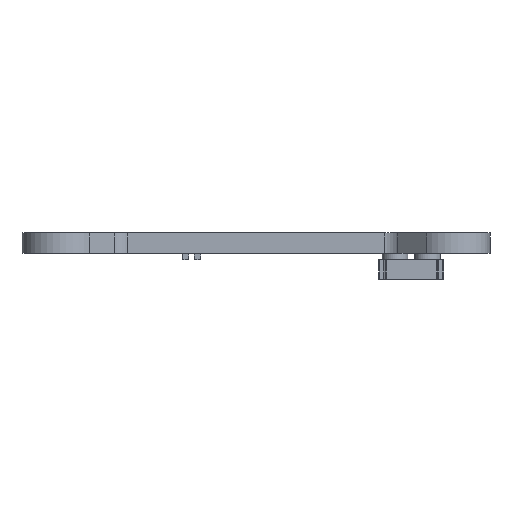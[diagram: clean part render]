
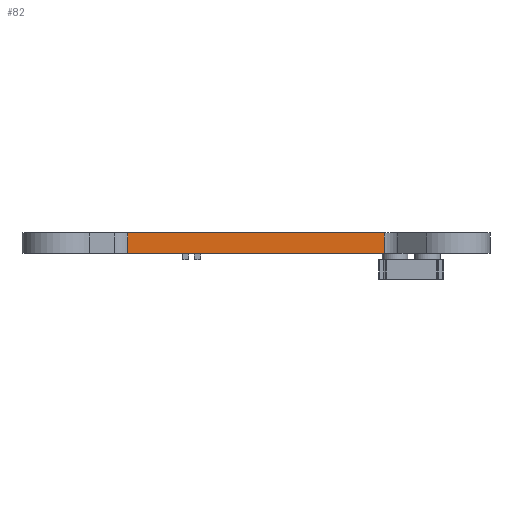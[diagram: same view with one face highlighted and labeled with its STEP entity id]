
A CAD part, left-side view. The second image highlights one B-rep face of the part: STEP entity #82.
In plain terms, the highlighted planar face has unit normal (-1, 0, 0).
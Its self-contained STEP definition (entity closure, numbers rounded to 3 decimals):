
#44 = EDGE_CURVE('',#45,#47,#49,.T.);
#45 = VERTEX_POINT('',#46);
#46 = CARTESIAN_POINT('',(0.419,25.25,0.));
#47 = VERTEX_POINT('',#48);
#48 = CARTESIAN_POINT('',(0.419,25.25,1.6)
  );
#49 = LINE('',#50,#51);
#50 = CARTESIAN_POINT('',(0.419,25.25,0.));
#51 = VECTOR('',#52,1.);
#52 = DIRECTION('',(0.,0.,1.));
#82 = ADVANCED_FACE('',(#83),#108,.T.);
#83 = FACE_BOUND('',#84,.T.);
#84 = EDGE_LOOP('',(#85,#95,#101,#102));
#85 = ORIENTED_EDGE('',*,*,#86,.T.);
#86 = EDGE_CURVE('',#87,#89,#91,.T.);
#87 = VERTEX_POINT('',#88);
#88 = CARTESIAN_POINT('',(0.419,5.25,0.));
#89 = VERTEX_POINT('',#90);
#90 = CARTESIAN_POINT('',(0.419,5.25,1.6)
  );
#91 = LINE('',#92,#93);
#92 = CARTESIAN_POINT('',(0.419,5.25,0.));
#93 = VECTOR('',#94,1.);
#94 = DIRECTION('',(0.,0.,1.));
#95 = ORIENTED_EDGE('',*,*,#96,.T.);
#96 = EDGE_CURVE('',#89,#47,#97,.T.);
#97 = LINE('',#98,#99);
#98 = CARTESIAN_POINT('',(0.419,5.25,1.6)
  );
#99 = VECTOR('',#100,1.);
#100 = DIRECTION('',(0.,1.,0.));
#101 = ORIENTED_EDGE('',*,*,#44,.F.);
#102 = ORIENTED_EDGE('',*,*,#103,.F.);
#103 = EDGE_CURVE('',#87,#45,#104,.T.);
#104 = LINE('',#105,#106);
#105 = CARTESIAN_POINT('',(0.419,5.25,0.));
#106 = VECTOR('',#107,1.);
#107 = DIRECTION('',(0.,1.,0.));
#108 = PLANE('',#109);
#109 = AXIS2_PLACEMENT_3D('',#110,#111,#112);
#110 = CARTESIAN_POINT('',(0.419,5.25,0.));
#111 = DIRECTION('',(-1.,0.,0.));
#112 = DIRECTION('',(0.,1.,0.));
